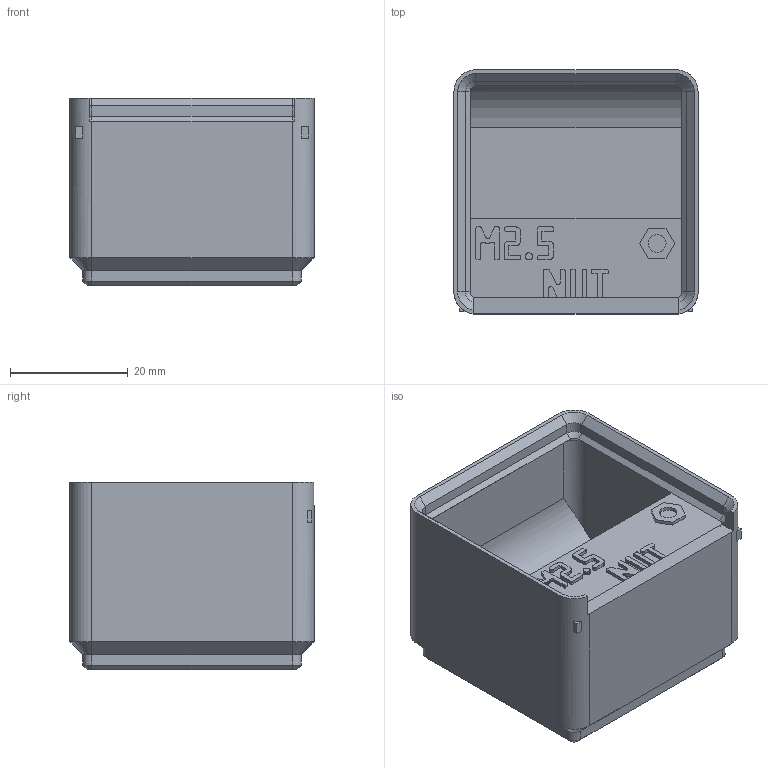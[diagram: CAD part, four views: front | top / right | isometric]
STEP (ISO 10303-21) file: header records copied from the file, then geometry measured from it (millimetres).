
FILE_DESCRIPTION(('Open CASCADE Model'),'2;1');
FILE_NAME('Open CASCADE Shape Model','2026-11-03T10:34:59',('Author'),( 'Open CASCADE'),'Open CASCADE STEP processor 8.0','build123d', 'Unknown');
FILE_SCHEMA(('AUTOMOTIVE_DESIGN { 1 0 10303 214 1 1 1 1 }'));
Length unit declared in the file: millimetre
Products named in the file (1): COMPOUND
Bounding box: 41.5 x 41.5 x 31.9 mm (x, y, z)
Volume: 14594.5 mm3; surface area: 13151.2 mm2
Topology: 1 solids, 1 shells, 704 faces, 2037 edges, 1342 vertices
Faces by surface type: plane 666, cone 20, cylinder 18
Full cylindrical faces by diameter (mm): 3 x1
Entity records: 47949 total; most frequent: CARTESIAN_POINT 10128, DIRECTION 6000, LINE 4459, VECTOR 4459, ORIENTED_EDGE 4074, PCURVE 4074, DEFINITIONAL_REPRESENTATION 4074, EDGE_CURVE 2037
